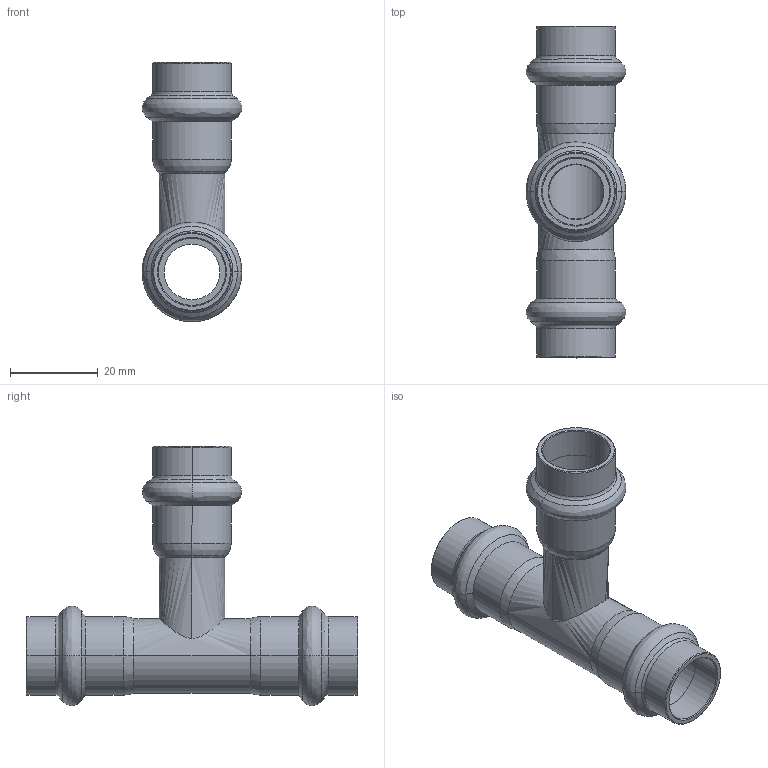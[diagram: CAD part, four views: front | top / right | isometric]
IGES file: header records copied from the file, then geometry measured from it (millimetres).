
Start section: Elysium IGES Interface
Global section: file name: C:\3d modellen sudo\C-Pr VP\SP8130V\8130VW15.igs; native system: CoCreate Modeling 17.00A  17-Jun-2010; preprocessor: CoCreate IGES_3D V2.2; author: Unknown; organization: Unknown; date: 20130129.161418; units: millimetre
Bounding box: 22.68 x 75.51 x 59.03 mm (x, y, z)
Volume: 9477.6 mm3; surface area: 12475 mm2
Topology: 1 solids, 1 shells, 124 faces, 254 edges, 138 vertices
Faces by surface type: bspline 124
